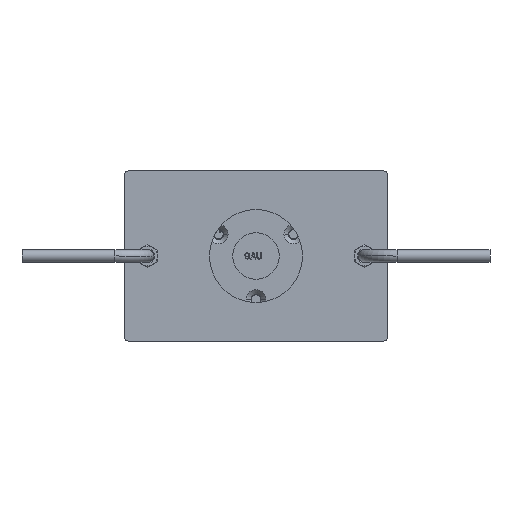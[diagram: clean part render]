
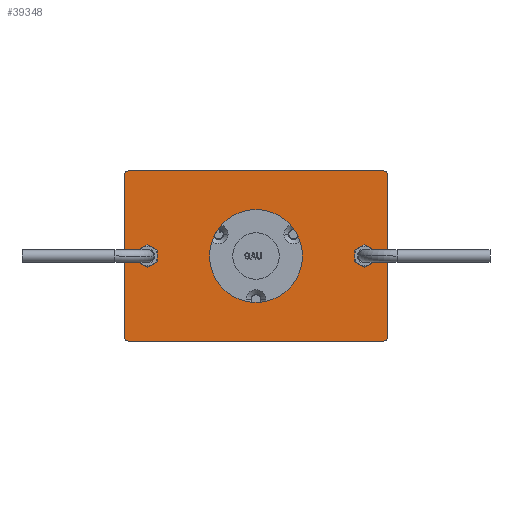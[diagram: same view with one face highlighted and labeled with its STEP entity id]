
A CAD part, front view. The second image highlights one B-rep face of the part: STEP entity #39348.
In plain terms, the highlighted planar face has unit normal (0, -1, 0) as drawn and (0, 0, 1) by its records, which use the part's own axes.
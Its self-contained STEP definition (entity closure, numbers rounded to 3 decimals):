
#39056=CARTESIAN_POINT('',(52.,82.,2.));
#39057=DIRECTION('',(0.,0.,1.));
#39058=DIRECTION('',(1.,0.,0.));
#39059=AXIS2_PLACEMENT_3D('',#39056,#39057,#39058);
#39061=DIRECTION('',(0.,1.,0.));
#39062=VECTOR('',#39061,164.);
#39063=CARTESIAN_POINT('',(55.,-82.,2.));
#39064=LINE('',#39063,#39062);
#39065=CARTESIAN_POINT('',(52.,-82.,2.));
#39066=DIRECTION('',(0.,0.,1.));
#39067=DIRECTION('',(0.,-1.,0.));
#39068=AXIS2_PLACEMENT_3D('',#39065,#39066,#39067);
#39070=DIRECTION('',(1.,0.,0.));
#39071=VECTOR('',#39070,104.);
#39072=CARTESIAN_POINT('',(-52.,-85.,2.));
#39073=LINE('',#39072,#39071);
#39074=CARTESIAN_POINT('',(-52.,-82.,2.));
#39075=DIRECTION('',(0.,0.,1.));
#39076=DIRECTION('',(-1.,0.,0.));
#39077=AXIS2_PLACEMENT_3D('',#39074,#39075,#39076);
#39079=DIRECTION('',(0.,-1.,0.));
#39080=VECTOR('',#39079,164.);
#39081=CARTESIAN_POINT('',(-55.,82.,2.));
#39082=LINE('',#39081,#39080);
#39083=CARTESIAN_POINT('',(-52.,82.,2.));
#39084=DIRECTION('',(0.,0.,1.));
#39085=DIRECTION('',(0.,1.,0.));
#39086=AXIS2_PLACEMENT_3D('',#39083,#39084,#39085);
#39088=DIRECTION('',(-1.,0.,0.));
#39089=VECTOR('',#39088,104.);
#39090=CARTESIAN_POINT('',(52.,85.,2.));
#39091=LINE('',#39090,#39089);
#39092=CARTESIAN_POINT('',(0.,70.,2.));
#39093=DIRECTION('',(0.,0.,-1.));
#39094=DIRECTION('',(1.,0.,0.));
#39095=AXIS2_PLACEMENT_3D('',#39092,#39093,#39094);
#39097=CARTESIAN_POINT('',(0.,70.,2.));
#39098=DIRECTION('',(0.,0.,-1.));
#39099=DIRECTION('',(-1.,0.,0.));
#39100=AXIS2_PLACEMENT_3D('',#39097,#39098,#39099);
#39102=CARTESIAN_POINT('',(0.,-70.,2.));
#39103=DIRECTION('',(0.,0.,-1.));
#39104=DIRECTION('',(1.,0.,0.));
#39105=AXIS2_PLACEMENT_3D('',#39102,#39103,#39104);
#39107=CARTESIAN_POINT('',(0.,-70.,2.));
#39108=DIRECTION('',(0.,0.,-1.));
#39109=DIRECTION('',(-1.,0.,0.));
#39110=AXIS2_PLACEMENT_3D('',#39107,#39108,#39109);
#39112=CARTESIAN_POINT('',(0.,0.,2.));
#39113=DIRECTION('',(0.,0.,-1.));
#39114=DIRECTION('',(1.,0.,0.));
#39115=AXIS2_PLACEMENT_3D('',#39112,#39113,#39114);
#39117=CARTESIAN_POINT('',(0.,0.,2.));
#39118=DIRECTION('',(0.,0.,-1.));
#39119=DIRECTION('',(-1.,0.,0.));
#39120=AXIS2_PLACEMENT_3D('',#39117,#39118,#39119);
#39236=CARTESIAN_POINT('',(-30.,0.,2.));
#39237=CARTESIAN_POINT('',(30.,0.,2.));
#39238=VERTEX_POINT('',#39236);
#39239=VERTEX_POINT('',#39237);
#39240=CARTESIAN_POINT('',(52.,-85.,2.));
#39241=CARTESIAN_POINT('',(55.,-82.,2.));
#39242=VERTEX_POINT('',#39240);
#39243=VERTEX_POINT('',#39241);
#39245=CARTESIAN_POINT('',(-52.,-85.,2.));
#39247=VERTEX_POINT('',#39245);
#39255=CARTESIAN_POINT('',(52.,85.,2.));
#39257=VERTEX_POINT('',#39255);
#39260=CARTESIAN_POINT('',(55.,82.,2.));
#39261=VERTEX_POINT('',#39260);
#39262=CARTESIAN_POINT('',(-55.,82.,2.));
#39263=CARTESIAN_POINT('',(-55.,-82.,2.));
#39264=VERTEX_POINT('',#39262);
#39265=VERTEX_POINT('',#39263);
#39268=CARTESIAN_POINT('',(-52.,85.,2.));
#39269=VERTEX_POINT('',#39268);
#39278=CARTESIAN_POINT('',(-4.1,-70.,2.));
#39279=VERTEX_POINT('',#39278);
#39280=CARTESIAN_POINT('',(4.1,-70.,2.));
#39281=VERTEX_POINT('',#39280);
#39282=CARTESIAN_POINT('',(4.1,70.,2.));
#39283=CARTESIAN_POINT('',(-4.1,70.,2.));
#39284=VERTEX_POINT('',#39282);
#39285=VERTEX_POINT('',#39283);
#39308=CARTESIAN_POINT('',(0.,0.,2.));
#39309=DIRECTION('',(0.,0.,1.));
#39310=DIRECTION('',(1.,0.,0.));
#39311=AXIS2_PLACEMENT_3D('',#39308,#39309,#39310);
#39312=PLANE('',#39311);
#39314=ORIENTED_EDGE('',*,*,#39313,.F.);
#39316=ORIENTED_EDGE('',*,*,#39315,.F.);
#39317=ORIENTED_EDGE('',*,*,#39297,.F.);
#39319=ORIENTED_EDGE('',*,*,#39318,.F.);
#39321=ORIENTED_EDGE('',*,*,#39320,.F.);
#39323=ORIENTED_EDGE('',*,*,#39322,.F.);
#39325=ORIENTED_EDGE('',*,*,#39324,.F.);
#39327=ORIENTED_EDGE('',*,*,#39326,.F.);
#39328=EDGE_LOOP('',(#39314,#39316,#39317,#39319,#39321,#39323,#39325,#39327));
#39329=FACE_OUTER_BOUND('',#39328,.F.);
#39331=ORIENTED_EDGE('',*,*,#39330,.F.);
#39333=ORIENTED_EDGE('',*,*,#39332,.F.);
#39334=EDGE_LOOP('',(#39331,#39333));
#39335=FACE_BOUND('',#39334,.F.);
#39337=ORIENTED_EDGE('',*,*,#39336,.F.);
#39339=ORIENTED_EDGE('',*,*,#39338,.F.);
#39340=EDGE_LOOP('',(#39337,#39339));
#39341=FACE_BOUND('',#39340,.F.);
#39343=ORIENTED_EDGE('',*,*,#39342,.F.);
#39345=ORIENTED_EDGE('',*,*,#39344,.F.);
#39346=EDGE_LOOP('',(#39343,#39345));
#39347=FACE_BOUND('',#39346,.F.);
#39348=ADVANCED_FACE('',(#39329,#39335,#39341,#39347),#39312,.T.);
#39060=CIRCLE('',#39059,3.);
#39069=CIRCLE('',#39068,3.);
#39078=CIRCLE('',#39077,3.);
#39087=CIRCLE('',#39086,3.);
#39096=CIRCLE('',#39095,4.1);
#39101=CIRCLE('',#39100,4.1);
#39106=CIRCLE('',#39105,4.1);
#39111=CIRCLE('',#39110,4.1);
#39116=CIRCLE('',#39115,30.);
#39121=CIRCLE('',#39120,30.);
#39297=EDGE_CURVE('',#39242,#39243,#39069,.T.);
#39313=EDGE_CURVE('',#39261,#39257,#39060,.T.);
#39315=EDGE_CURVE('',#39243,#39261,#39064,.T.);
#39318=EDGE_CURVE('',#39247,#39242,#39073,.T.);
#39320=EDGE_CURVE('',#39265,#39247,#39078,.T.);
#39322=EDGE_CURVE('',#39264,#39265,#39082,.T.);
#39324=EDGE_CURVE('',#39269,#39264,#39087,.T.);
#39326=EDGE_CURVE('',#39257,#39269,#39091,.T.);
#39330=EDGE_CURVE('',#39284,#39285,#39096,.T.);
#39332=EDGE_CURVE('',#39285,#39284,#39101,.T.);
#39336=EDGE_CURVE('',#39281,#39279,#39106,.T.);
#39338=EDGE_CURVE('',#39279,#39281,#39111,.T.);
#39342=EDGE_CURVE('',#39239,#39238,#39116,.T.);
#39344=EDGE_CURVE('',#39238,#39239,#39121,.T.);
